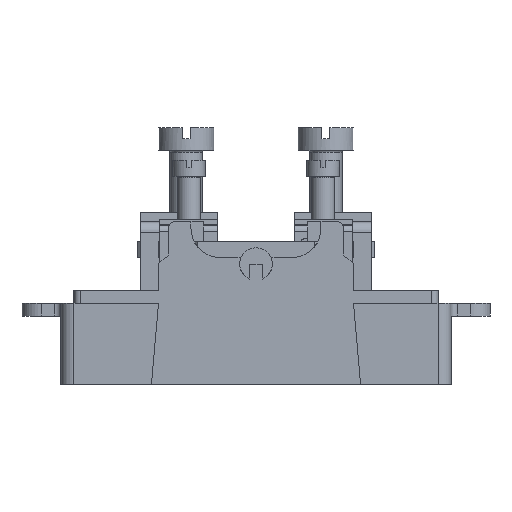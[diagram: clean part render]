
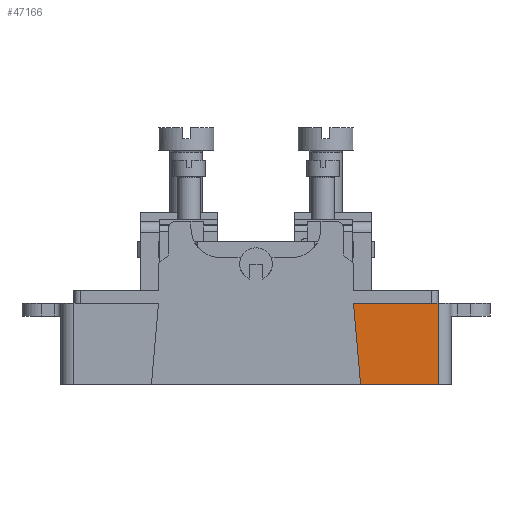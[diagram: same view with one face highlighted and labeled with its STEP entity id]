
A CAD part, left-side view. The second image highlights one B-rep face of the part: STEP entity #47166.
In plain terms, the highlighted planar face has unit normal (-1, 0, 0).
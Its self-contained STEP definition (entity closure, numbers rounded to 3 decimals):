
#2604=ORIENTED_EDGE('',*,*,#12364,.T.);
#2605=ORIENTED_EDGE('',*,*,#12365,.F.);
#2606=ORIENTED_EDGE('',*,*,#12366,.T.);
#2607=ORIENTED_EDGE('',*,*,#12367,.T.);
#12364=EDGE_CURVE('',#17283,#17284,#20731,.T.);
#12365=EDGE_CURVE('',#17285,#17284,#20732,.F.);
#12366=EDGE_CURVE('',#17285,#17286,#20733,.T.);
#12367=EDGE_CURVE('',#17286,#17283,#20734,.T.);
#17283=VERTEX_POINT('',#62981);
#17284=VERTEX_POINT('',#62982);
#17285=VERTEX_POINT('',#62984);
#17286=VERTEX_POINT('',#62986);
#20731=LINE('',#62980,#24661);
#20732=LINE('',#62983,#24662);
#20733=LINE('',#62985,#24663);
#20734=LINE('',#62987,#24664);
#24661=VECTOR('',#52610,1000.);
#24662=VECTOR('',#52611,1000.);
#24663=VECTOR('',#52612,1000.);
#24664=VECTOR('',#52613,1000.);
#28397=EDGE_LOOP('',(#2604,#2605,#2606,#2607));
#30609=FACE_BOUND('',#28397,.T.);
#32741=PLANE('',#49137);
#47166=ADVANCED_FACE('',(#30609),#32741,.T.);
#49137=AXIS2_PLACEMENT_3D('',#62979,#52608,#52609);
#52608=DIRECTION('',(-1.,0.,0.));
#52609=DIRECTION('',(0.,0.,-1.));
#52610=DIRECTION('',(0.,1.,0.));
#52611=DIRECTION('',(0.,-0.087,-0.996));
#52612=DIRECTION('',(0.,-1.,0.));
#52613=DIRECTION('',(0.,0.,1.));
#62979=CARTESIAN_POINT('',(-11.,30.,-22.));
#62980=CARTESIAN_POINT('',(-11.,30.,-9.5));
#62981=CARTESIAN_POINT('',(-11.,-28.,-9.5));
#62982=CARTESIAN_POINT('',(-11.,-15.,-9.5));
#62983=CARTESIAN_POINT('',(-11.,-15.743,-17.998));
#62984=CARTESIAN_POINT('',(-11.,-16.094,-22.));
#62985=CARTESIAN_POINT('',(-11.,30.,-22.));
#62986=CARTESIAN_POINT('',(-11.,-28.,-22.));
#62987=CARTESIAN_POINT('',(-11.,-28.,-22.));
